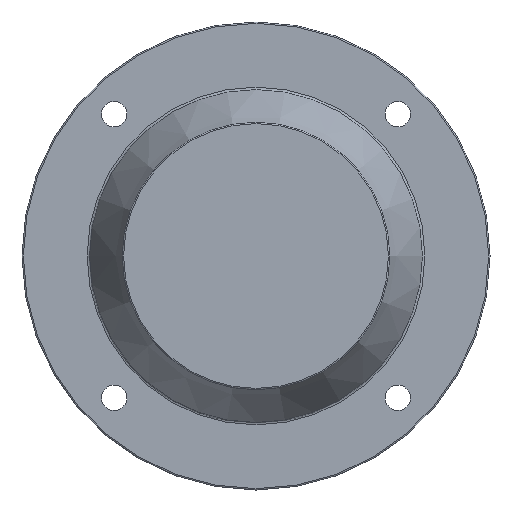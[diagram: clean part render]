
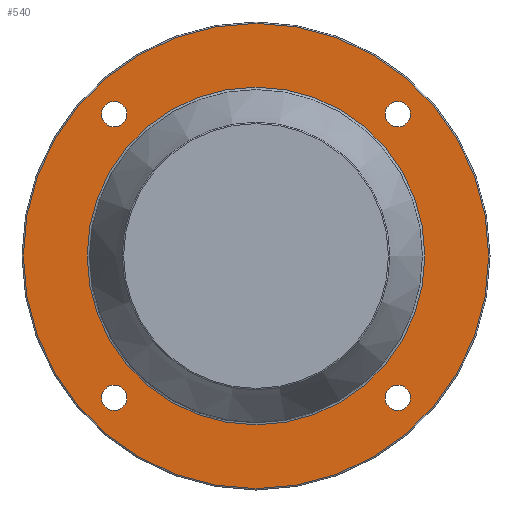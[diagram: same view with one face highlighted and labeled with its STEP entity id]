
A CAD part, left-side view. The second image highlights one B-rep face of the part: STEP entity #540.
In plain terms, the highlighted planar face has unit normal (-1, 0, 0).
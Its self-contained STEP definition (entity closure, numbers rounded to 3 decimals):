
#254=CARTESIAN_POINT('',(140.5,115.566,-106.066));
#255=VERTEX_POINT('',#254);
#256=CARTESIAN_POINT('',(140.5,106.066,-106.066));
#257=DIRECTION('',(1.0,0.0,0.0));
#258=DIRECTION('',(0.0,1.0,0.0));
#259=AXIS2_PLACEMENT_3D('',#256,#257,#258);
#260=CIRCLE('',#259,9.5);
#261=EDGE_CURVE('',#255,#255,#260,.T.);
#303=CARTESIAN_POINT('',(140.5,-96.566,-106.066));
#304=VERTEX_POINT('',#303);
#305=CARTESIAN_POINT('',(140.5,-106.066,-106.066));
#306=DIRECTION('',(1.0,0.0,0.0));
#307=DIRECTION('',(0.0,1.0,0.0));
#308=AXIS2_PLACEMENT_3D('',#305,#306,#307);
#309=CIRCLE('',#308,9.5);
#310=EDGE_CURVE('',#304,#304,#309,.T.);
#352=CARTESIAN_POINT('',(140.5,-96.566,106.066));
#353=VERTEX_POINT('',#352);
#354=CARTESIAN_POINT('',(140.5,-106.066,106.066));
#355=DIRECTION('',(1.0,0.0,0.0));
#356=DIRECTION('',(0.0,1.0,0.0));
#357=AXIS2_PLACEMENT_3D('',#354,#355,#356);
#358=CIRCLE('',#357,9.5);
#359=EDGE_CURVE('',#353,#353,#358,.T.);
#401=CARTESIAN_POINT('',(140.5,115.566,106.066));
#402=VERTEX_POINT('',#401);
#403=CARTESIAN_POINT('',(140.5,106.066,106.066));
#404=DIRECTION('',(1.0,0.0,0.0));
#405=DIRECTION('',(0.0,1.0,0.0));
#406=AXIS2_PLACEMENT_3D('',#403,#404,#405);
#407=CIRCLE('',#406,9.5);
#408=EDGE_CURVE('',#402,#402,#407,.T.);
#477=CARTESIAN_POINT('',(140.5,126.273,0.));
#478=VERTEX_POINT('',#477);
#479=CARTESIAN_POINT('',(140.5,0.0,0.0));
#480=DIRECTION('',(-1.0,0.0,0.0));
#481=DIRECTION('',(0.0,-1.0,0.0));
#482=AXIS2_PLACEMENT_3D('',#479,#480,#481);
#483=CIRCLE('',#482,126.273);
#484=EDGE_CURVE('',#478,#478,#483,.T.);
#509=CARTESIAN_POINT('',(140.5,150.0,0.));
#510=DIRECTION('',(-1.0,0.0,0.0));
#511=DIRECTION('',(0.0,0.0,1.0));
#512=AXIS2_PLACEMENT_3D('',#509,#510,#511);
#513=PLANE('',#512);
#514=CARTESIAN_POINT('',(140.5,174.0,0.0));
#515=VERTEX_POINT('',#514);
#516=CARTESIAN_POINT('',(140.5,0.0,0.0));
#517=DIRECTION('',(1.0,0.0,0.0));
#518=DIRECTION('',(0.0,-1.0,0.0));
#519=AXIS2_PLACEMENT_3D('',#516,#517,#518);
#520=CIRCLE('',#519,174.0);
#521=EDGE_CURVE('',#515,#515,#520,.T.);
#522=ORIENTED_EDGE('',*,*,#521,.F.);
#523=EDGE_LOOP('',(#522));
#524=FACE_OUTER_BOUND('',#523,.T.);
#525=ORIENTED_EDGE('',*,*,#261,.T.);
#526=EDGE_LOOP('',(#525));
#527=FACE_BOUND('',#526,.T.);
#528=ORIENTED_EDGE('',*,*,#310,.T.);
#529=EDGE_LOOP('',(#528));
#530=FACE_BOUND('',#529,.T.);
#531=ORIENTED_EDGE('',*,*,#359,.T.);
#532=EDGE_LOOP('',(#531));
#533=FACE_BOUND('',#532,.T.);
#534=ORIENTED_EDGE('',*,*,#408,.T.);
#535=EDGE_LOOP('',(#534));
#536=FACE_BOUND('',#535,.T.);
#537=ORIENTED_EDGE('',*,*,#484,.F.);
#538=EDGE_LOOP('',(#537));
#539=FACE_BOUND('',#538,.T.);
#540=ADVANCED_FACE('',(#524,#527,#530,#533,#536,#539),#513,.T.);
